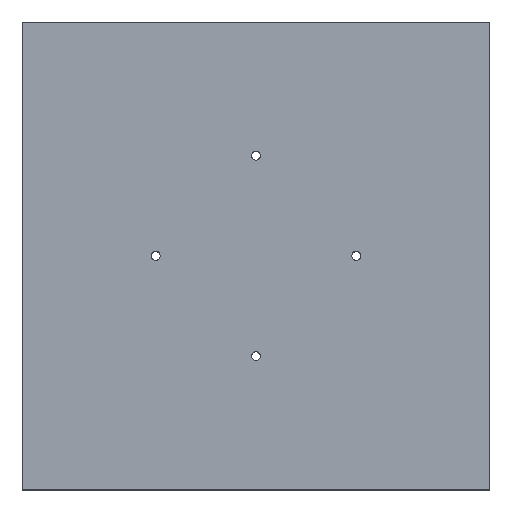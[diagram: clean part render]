
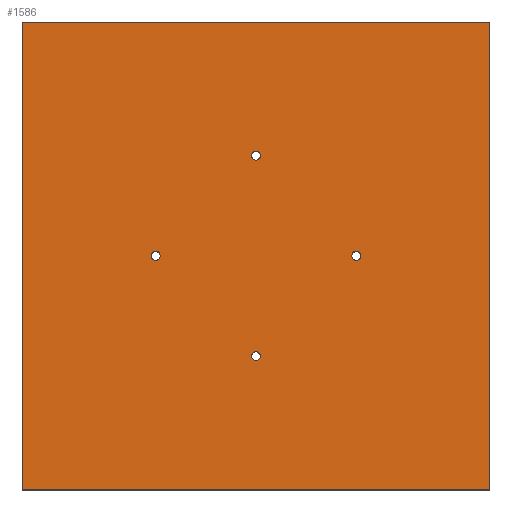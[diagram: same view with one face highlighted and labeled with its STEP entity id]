
A CAD part, top view. The second image highlights one B-rep face of the part: STEP entity #1586.
In plain terms, the highlighted planar face has unit normal (0, 0, 1).
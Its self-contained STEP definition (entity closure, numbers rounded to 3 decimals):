
#10 = CIRCLE ( 'NONE', #1483, 1. ) ;
#19 = LINE ( 'NONE', #662, #2031 ) ;
#55 = CIRCLE ( 'NONE', #530, 1. ) ;
#80 = CIRCLE ( 'NONE', #628, 1. ) ;
#87 = DIRECTION ( 'NONE',  ( 1., 0., 0. ) ) ;
#96 = DIRECTION ( 'NONE',  ( 1., 0., 0. ) ) ;
#112 = CIRCLE ( 'NONE', #651, 1. ) ;
#114 = DIRECTION ( 'NONE',  ( 0., 1., 0. ) ) ;
#118 = DIRECTION ( 'NONE',  ( 0., 0., 1. ) ) ;
#131 = DIRECTION ( 'NONE',  ( 1., 0., 0. ) ) ;
#141 = VERTEX_POINT ( 'NONE', #1308 ) ;
#150 = CARTESIAN_POINT ( 'NONE',  ( 76., 52.5, 22.5 ) ) ;
#153 = LINE ( 'NONE', #549, #1718 ) ;
#173 = DIRECTION ( 'NONE',  ( 0., -1., 0. ) ) ;
#209 = CARTESIAN_POINT ( 'NONE',  ( 52.5, 75., 22.5 ) ) ;
#215 = ORIENTED_EDGE ( 'NONE', *, *, #1832, .T. ) ;
#218 = CARTESIAN_POINT ( 'NONE',  ( 30., 52.5, 22.5 ) ) ;
#224 = DIRECTION ( 'NONE',  ( 0., 0., 1. ) ) ;
#237 = DIRECTION ( 'NONE',  ( 1., 0., 0. ) ) ;
#255 = DIRECTION ( 'NONE',  ( 0., 0., 1. ) ) ;
#267 = ORIENTED_EDGE ( 'NONE', *, *, #1071, .F. ) ;
#277 = ORIENTED_EDGE ( 'NONE', *, *, #1616, .F. ) ;
#282 = EDGE_CURVE ( 'NONE', #141, #806, #55, .T. ) ;
#296 = EDGE_CURVE ( 'NONE', #985, #434, #341, .T. ) ;
#311 = CARTESIAN_POINT ( 'NONE',  ( 52.5, 30., 22.5 ) ) ;
#327 = EDGE_CURVE ( 'NONE', #1893, #985, #19, .T. ) ;
#332 = DIRECTION ( 'NONE',  ( 0., 0., 1. ) ) ;
#341 = LINE ( 'NONE', #1500, #1261 ) ;
#346 = FACE_BOUND ( 'NONE', #495, .T. ) ;
#359 = DIRECTION ( 'NONE',  ( 1., 0., 0. ) ) ;
#390 = CARTESIAN_POINT ( 'NONE',  ( 105., 0., 22.5 ) ) ;
#434 = VERTEX_POINT ( 'NONE', #1107 ) ;
#456 = DIRECTION ( 'NONE',  ( 0., 0., 1. ) ) ;
#495 = EDGE_LOOP ( 'NONE', ( #1313, #267 ) ) ;
#530 = AXIS2_PLACEMENT_3D ( 'NONE', #1808, #332, #1641 ) ;
#549 = CARTESIAN_POINT ( 'NONE',  ( 0., 0., 22.5 ) ) ;
#559 = DIRECTION ( 'NONE',  ( 1., 0., 0. ) ) ;
#565 = CARTESIAN_POINT ( 'NONE',  ( 30., 52.5, 22.5 ) ) ;
#583 = VERTEX_POINT ( 'NONE', #390 ) ;
#590 = LINE ( 'NONE', #1602, #894 ) ;
#626 = EDGE_CURVE ( 'NONE', #637, #1779, #634, .T. ) ;
#628 = AXIS2_PLACEMENT_3D ( 'NONE', #209, #1821, #846 ) ;
#634 = CIRCLE ( 'NONE', #1040, 1. ) ;
#636 = CARTESIAN_POINT ( 'NONE',  ( 31., 52.5, 22.5 ) ) ;
#637 = VERTEX_POINT ( 'NONE', #1168 ) ;
#651 = AXIS2_PLACEMENT_3D ( 'NONE', #896, #255, #237 ) ;
#662 = CARTESIAN_POINT ( 'NONE',  ( 0., 105., 22.5 ) ) ;
#677 = VERTEX_POINT ( 'NONE', #882 ) ;
#695 = VERTEX_POINT ( 'NONE', #1541 ) ;
#712 = DIRECTION ( 'NONE',  ( 1., 0., 0. ) ) ;
#757 = ORIENTED_EDGE ( 'NONE', *, *, #2052, .T. ) ;
#806 = VERTEX_POINT ( 'NONE', #1746 ) ;
#820 = DIRECTION ( 'NONE',  ( -1., 0., 0. ) ) ;
#829 = ORIENTED_EDGE ( 'NONE', *, *, #851, .F. ) ;
#846 = DIRECTION ( 'NONE',  ( 1., 0., 0. ) ) ;
#851 = EDGE_CURVE ( 'NONE', #677, #1550, #1773, .T. ) ;
#863 = VERTEX_POINT ( 'NONE', #150 ) ;
#875 = CARTESIAN_POINT ( 'NONE',  ( 0., 105., 22.5 ) ) ;
#882 = CARTESIAN_POINT ( 'NONE',  ( 53.5, 30., 22.5 ) ) ;
#894 = VECTOR ( 'NONE', #114, 1000. ) ;
#896 = CARTESIAN_POINT ( 'NONE',  ( 75., 52.5, 22.5 ) ) ;
#916 = EDGE_LOOP ( 'NONE', ( #928, #1505 ) ) ;
#921 = DIRECTION ( 'NONE',  ( 0., 0., 1. ) ) ;
#926 = FACE_BOUND ( 'NONE', #2040, .T. ) ;
#928 = ORIENTED_EDGE ( 'NONE', *, *, #282, .F. ) ;
#985 = VERTEX_POINT ( 'NONE', #875 ) ;
#989 = CIRCLE ( 'NONE', #1621, 1. ) ;
#990 = CIRCLE ( 'NONE', #1595, 1. ) ;
#1040 = AXIS2_PLACEMENT_3D ( 'NONE', #218, #1510, #712 ) ;
#1052 = CARTESIAN_POINT ( 'NONE',  ( 52.5, 30., 22.5 ) ) ;
#1071 = EDGE_CURVE ( 'NONE', #863, #695, #112, .T. ) ;
#1100 = EDGE_CURVE ( 'NONE', #1779, #637, #10, .T. ) ;
#1102 = AXIS2_PLACEMENT_3D ( 'NONE', #1569, #1549, #1235 ) ;
#1107 = CARTESIAN_POINT ( 'NONE',  ( 0., 0., 22.5 ) ) ;
#1120 = ORIENTED_EDGE ( 'NONE', *, *, #327, .T. ) ;
#1156 = EDGE_LOOP ( 'NONE', ( #1749, #1943 ) ) ;
#1159 = EDGE_LOOP ( 'NONE', ( #1275, #757, #215, #1120 ) ) ;
#1168 = CARTESIAN_POINT ( 'NONE',  ( 29., 52.5, 22.5 ) ) ;
#1205 = FACE_BOUND ( 'NONE', #916, .T. ) ;
#1235 = DIRECTION ( 'NONE',  ( -1., 0., 0. ) ) ;
#1261 = VECTOR ( 'NONE', #173, 1000. ) ;
#1267 = AXIS2_PLACEMENT_3D ( 'NONE', #311, #456, #131 ) ;
#1275 = ORIENTED_EDGE ( 'NONE', *, *, #296, .T. ) ;
#1308 = CARTESIAN_POINT ( 'NONE',  ( 51.5, 75., 22.5 ) ) ;
#1313 = ORIENTED_EDGE ( 'NONE', *, *, #2103, .F. ) ;
#1364 = CARTESIAN_POINT ( 'NONE',  ( 51.5, 30., 22.5 ) ) ;
#1413 = PLANE ( 'NONE',  #1102 ) ;
#1433 = FACE_BOUND ( 'NONE', #1156, .T. ) ;
#1442 = EDGE_CURVE ( 'NONE', #806, #141, #80, .T. ) ;
#1483 = AXIS2_PLACEMENT_3D ( 'NONE', #565, #921, #87 ) ;
#1500 = CARTESIAN_POINT ( 'NONE',  ( 0., 0., 22.5 ) ) ;
#1505 = ORIENTED_EDGE ( 'NONE', *, *, #1442, .F. ) ;
#1510 = DIRECTION ( 'NONE',  ( 0., 0., 1. ) ) ;
#1527 = CARTESIAN_POINT ( 'NONE',  ( 75., 52.5, 22.5 ) ) ;
#1528 = FACE_OUTER_BOUND ( 'NONE', #1159, .T. ) ;
#1541 = CARTESIAN_POINT ( 'NONE',  ( 74., 52.5, 22.5 ) ) ;
#1549 = DIRECTION ( 'NONE',  ( 0., 0., -1. ) ) ;
#1550 = VERTEX_POINT ( 'NONE', #1364 ) ;
#1569 = CARTESIAN_POINT ( 'NONE',  ( 0., 0., 22.5 ) ) ;
#1586 = ADVANCED_FACE ( 'NONE', ( #1528, #1205, #346, #926, #1433 ), #1413, .F. ) ;
#1595 = AXIS2_PLACEMENT_3D ( 'NONE', #1527, #224, #359 ) ;
#1602 = CARTESIAN_POINT ( 'NONE',  ( 105., 0., 22.5 ) ) ;
#1616 = EDGE_CURVE ( 'NONE', #1550, #677, #989, .T. ) ;
#1621 = AXIS2_PLACEMENT_3D ( 'NONE', #1052, #118, #96 ) ;
#1641 = DIRECTION ( 'NONE',  ( 1., 0., 0. ) ) ;
#1718 = VECTOR ( 'NONE', #559, 1000. ) ;
#1746 = CARTESIAN_POINT ( 'NONE',  ( 53.5, 75., 22.5 ) ) ;
#1749 = ORIENTED_EDGE ( 'NONE', *, *, #626, .F. ) ;
#1773 = CIRCLE ( 'NONE', #1267, 1. ) ;
#1779 = VERTEX_POINT ( 'NONE', #636 ) ;
#1808 = CARTESIAN_POINT ( 'NONE',  ( 52.5, 75., 22.5 ) ) ;
#1821 = DIRECTION ( 'NONE',  ( 0., 0., 1. ) ) ;
#1832 = EDGE_CURVE ( 'NONE', #583, #1893, #590, .T. ) ;
#1875 = CARTESIAN_POINT ( 'NONE',  ( 105., 105., 22.5 ) ) ;
#1893 = VERTEX_POINT ( 'NONE', #1875 ) ;
#1943 = ORIENTED_EDGE ( 'NONE', *, *, #1100, .F. ) ;
#2031 = VECTOR ( 'NONE', #820, 1000. ) ;
#2040 = EDGE_LOOP ( 'NONE', ( #277, #829 ) ) ;
#2052 = EDGE_CURVE ( 'NONE', #434, #583, #153, .T. ) ;
#2103 = EDGE_CURVE ( 'NONE', #695, #863, #990, .T. ) ;
